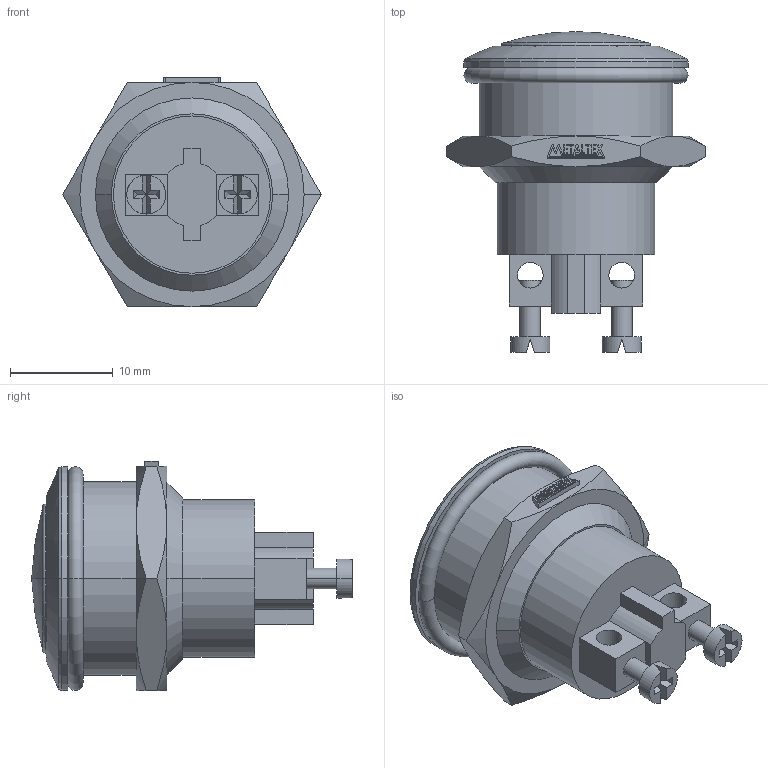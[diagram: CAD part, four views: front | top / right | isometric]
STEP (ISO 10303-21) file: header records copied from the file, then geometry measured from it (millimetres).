
FILE_DESCRIPTION (( 'STEP AP203' ), '1' );
FILE_NAME ('AV19BA.STEP', '2018-01-17T14:31:00', ( '' ), ( '' ), 'SwSTEP 2.0', 'SolidWorks 2012', '' );
FILE_SCHEMA (( 'CONFIG_CONTROL_DESIGN' ));
Length unit declared in the file: millimetre
Products named in the file (3): AV19BA; METALTEX 5,62
Assembly tree (2 placements, depth 2):
  AV19BA
    AV19BA
    METALTEX 5,62
Bounding box: 25.2 x 31.2 x 22.32 mm (x, y, z)
Volume: 5968.4 mm3; surface area: 2800.6 mm2
Topology: 8 solids, 8 shells, 210 faces, 506 edges, 325 vertices
Faces by surface type: plane 154, cylinder 30, cone 18, torus 4, sphere 4
Entity records: 6493 total; most frequent: CARTESIAN_POINT 1282, ORIENTED_EDGE 1012, DIRECTION 994, EDGE_CURVE 506, LINE 376, VECTOR 376, VERTEX_POINT 325, AXIS2_PLACEMENT_3D 309
